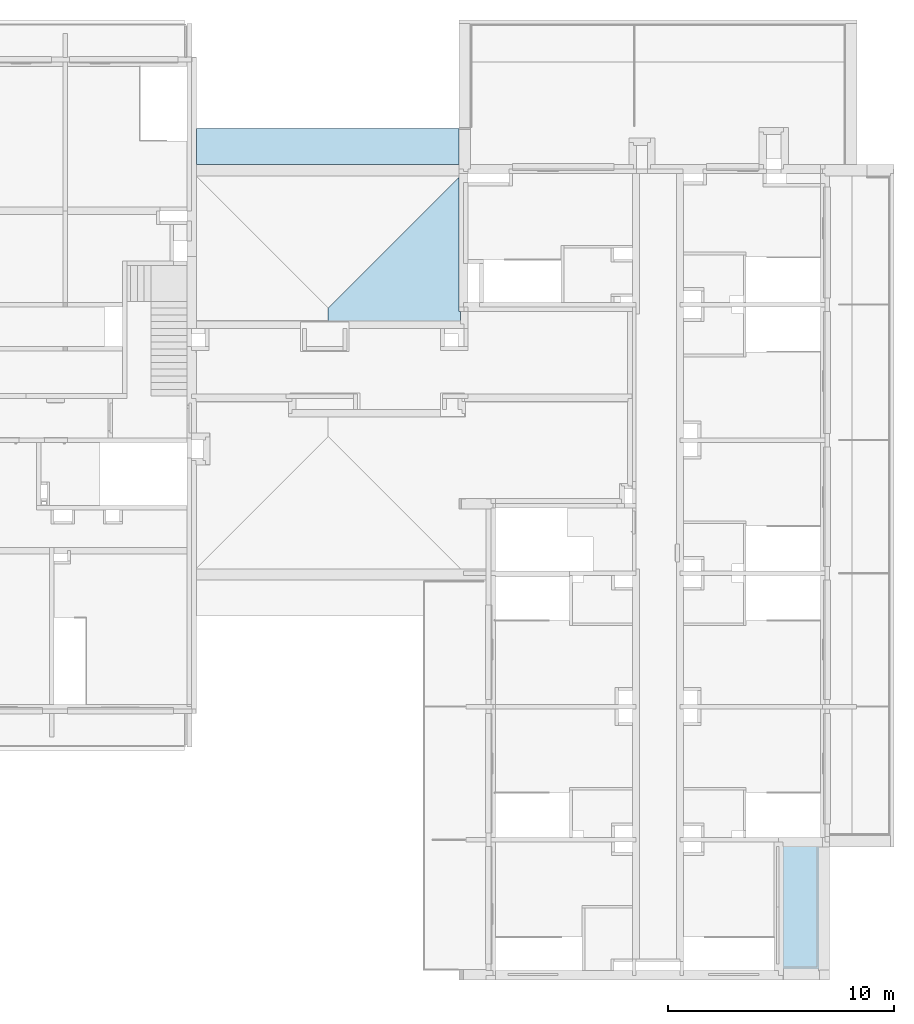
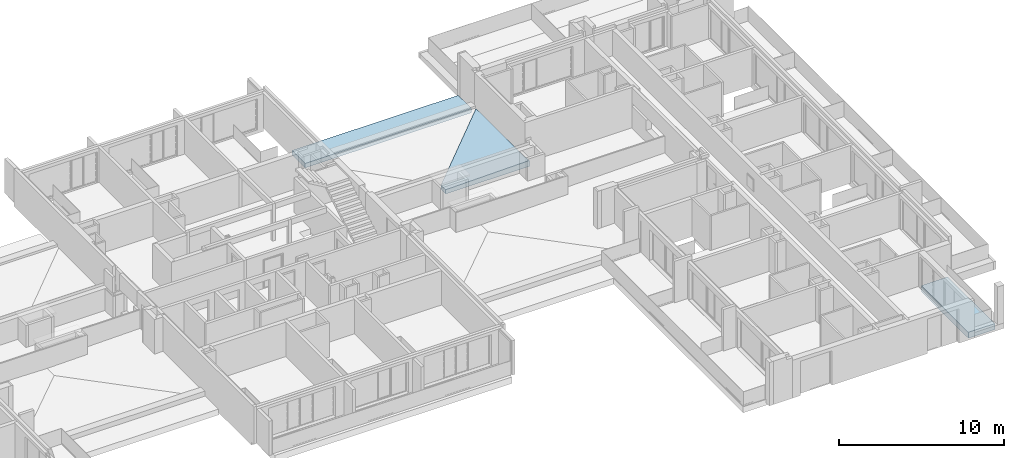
# One storey, part 6 of 30: 3 slabs.
"""IFC2X3 building model written with IfcOpenShell, lengths in millimetres."""

from ifc_helpers import new_model, entity, si_unit, converted_unit, derived_unit, money_unit, direction, frame, origin_with_axes, place, context, subcontext, project, spatial, faceted_brep, material, material_list, type_object, element, save


model = new_model("IFC2X3")

# Units and contexts
model_context = context("Model", 3, precision=0.01, world=origin_with_axes(), true_north=direction((0.34421633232, 0.938890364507)))
body_context = subcontext(model_context, "Body", "Model", "MODEL_VIEW")
ifc_project = project(units=[si_unit("LENGTHUNIT", "METRE", prefix="MILLI"), si_unit("AREAUNIT", "SQUARE_METRE"), si_unit("VOLUMEUNIT", "CUBIC_METRE"), converted_unit("PLANEANGLEUNIT", "DEGREE", entity("IfcPlaneAngleMeasure", 0.0174532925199), si_unit("PLANEANGLEUNIT", "RADIAN"), dimensions=[0, 0, 0, 0, 0, 0, 0]), si_unit("SOLIDANGLEUNIT", "STERADIAN"), money_unit("USD"), converted_unit("TIMEUNIT", "Year", entity("IfcTimeMeasure", 31556926.0), si_unit("TIMEUNIT", "SECOND"), dimensions=[0, 0, 1, 0, 0, 0, 0]), si_unit("MASSUNIT", "GRAM", prefix="KILO"), si_unit("THERMODYNAMICTEMPERATUREUNIT", "DEGREE_CELSIUS"), si_unit("LUMINOUSINTENSITYUNIT", "LUMEN"), si_unit("ENERGYUNIT", "JOULE", prefix="MEGA"), derived_unit("THERMALCONDUCTANCEUNIT", [(si_unit("POWERUNIT", "WATT"), 1), (si_unit("LENGTHUNIT", "METRE"), -1), (si_unit("THERMODYNAMICTEMPERATUREUNIT", "KELVIN"), -1)]), derived_unit("SPECIFICHEATCAPACITYUNIT", [(si_unit("ENERGYUNIT", "JOULE"), 1), (si_unit("MASSUNIT", "GRAM", prefix="KILO"), -1), (si_unit("THERMODYNAMICTEMPERATUREUNIT", "KELVIN"), -1)]), derived_unit("MASSDENSITYUNIT", [(si_unit("MASSUNIT", "GRAM", prefix="KILO"), 1), (si_unit("VOLUMEUNIT", "CUBIC_METRE"), -1)])], contexts=[model_context])

# Site, building, storey
site_placement = place(None, origin_with_axes())
site = spatial("IfcSite", under=ifc_project, at=site_placement, Name="USTRONIE MORSKIE", CompositionType="ELEMENT")
building_placement = place(site_placement, origin_with_axes())
building = spatial("IfcBuilding", under=site, at=building_placement, Name="Budynek", CompositionType="ELEMENT")
storey_placement = place(building_placement, frame((0.0, 0.0, 16000.0), z_axis=(0.0, 0.0, 1.0), x_axis=(1.0, 0.0, 0.0)))
storey = spatial("IfcBuildingStorey", under=building, at=storey_placement, Name="ANTRESOLA - KOND. TECHNICZNA", CompositionType="ELEMENT", Elevation=16000.0)

# Slabs
ifc_material_1 = material(Name="Płytki okładzinowe")
ifc_material_2 = material(Name="Pustka powietrzna")
ifc_material_3 = material(Name="Membrana przeciwwilgociowa")
ifc_material_4 = material(Name="Beton konstrukcyjny B25")
ifc_material_5 = material(Name="Laminat")
ifc_material_list_1 = material_list([ifc_material_1, ifc_material_2, ifc_material_3, ifc_material_4, ifc_material_5])
slab_type_1 = type_object("IfcSlabType", Name="Balkony na HALFENACH 330", PredefinedType="FLOOR")
slab_1_placement = place(storey_placement, frame((396627.920919, 746601.194135, -50.0000020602), z_axis=(0.0, 0.0, 1.0), x_axis=(1.0, 0.0, 0.0)))
element("IfcSlab", 1, at=slab_1_placement, inside=storey, type_object=slab_type_1, material=ifc_material_list_1, Name="P3", PredefinedType="FLOOR", context=body_context, shape_type="Brep", body=[
    faceted_brep([(0.0, -1599.99481134, -25.0), (0.0, -1599.99481134, 0.0), (0.0, 0.0, 0.0), (0.0, 0.0, -25.0), (11640.0000087, -1599.99481134, -25.0), (11640.0000087, -1599.99481134, 0.0), (11640.0000087, 0.0, 0.0), (11640.0000087, 0.0, -25.0)], [[[0, 1, 2, 3]], [[4, 5, 1, 0]], [[2, 1, 5, 6]], [[3, 2, 6, 7]], [[3, 7, 4, 0]], [[7, 6, 5, 4]]]),
    faceted_brep([(0.0, -1599.99481134, -105.0), (0.0, -1599.99481134, -25.0), (0.0, 0.0, -25.0), (0.0, 0.0, -105.0), (11640.0000087, -1599.99481134, -105.0), (11640.0000087, -1599.99481134, -25.0), (11640.0000087, 0.0, -25.0), (11640.0000087, 0.0, -105.0)], [[[0, 1, 2, 3]], [[4, 5, 1, 0]], [[2, 1, 5, 6]], [[3, 2, 6, 7]], [[3, 7, 4, 0]], [[7, 6, 5, 4]]]),
    faceted_brep([(0.0, -1599.99481134, -110.0), (0.0, -1599.99481134, -105.0), (0.0, 0.0, -105.0), (0.0, 0.0, -110.0), (11640.0000087, -1599.99481134, -110.0), (11640.0000087, -1599.99481134, -105.0), (11640.0000087, 0.0, -105.0), (11640.0000087, 0.0, -110.0)], [[[0, 1, 2, 3]], [[4, 5, 1, 0]], [[2, 1, 5, 6]], [[3, 2, 6, 7]], [[3, 7, 4, 0]], [[7, 6, 5, 4]]]),
    faceted_brep([(0.0, -1599.99481134, -310.0), (0.0, -1599.99481134, -110.0), (0.0, 0.0, -110.0), (0.0, 0.0, -310.0), (11640.0000087, -1599.99481134, -310.0), (11640.0000087, -1599.99481134, -110.0), (11640.0000087, 0.0, -110.0), (11640.0000087, 0.0, -310.0)], [[[0, 1, 2, 3]], [[4, 5, 1, 0]], [[2, 1, 5, 6]], [[3, 2, 6, 7]], [[3, 7, 4, 0]], [[7, 6, 5, 4]]]),
    faceted_brep([(0.0, -1589.99481316, -310.0), (11630.0, -1589.99481316, -310.0), (11630.0, 0.0, -310.0), (0.0, 0.0, -310.0), (11630.0, -1589.99481316, -330.0), (0.0, -1589.99481316, -330.0), (11630.0, 0.0, -330.0), (0.0, 0.0, -330.0)], [[[0, 1, 2, 3]], [[4, 1, 0, 5]], [[1, 4, 6, 2]], [[2, 6, 7, 3]], [[5, 0, 3, 7]], [[4, 5, 7, 6]]]),
])
ifc_material_6 = material(Name="Okładzina kamienna")
ifc_material_7 = material(Name="Żwir")
ifc_material_8 = material(Name="Membrana hydroizolacyjna")
ifc_material_9 = material(Name="Termoizolacja PIR")
ifc_material_list_2 = material_list([ifc_material_6, ifc_material_7, ifc_material_8, ifc_material_9, ifc_material_9])
slab_type_2 = type_object("IfcSlabType", Name="509-PS STROP DACH BALAST 560", PredefinedType="ROOF")
slab_2_placement = place(storey_placement, frame((402517.920904, 738396.199224, -400.0), z_axis=(0.0, 0.0, 1.0), x_axis=(-5.50732422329e-09, 1.0, 0.0)))
element("IfcSlab", 2, at=slab_2_placement, inside=storey, type_object=slab_type_2, material=ifc_material_list_2, Name="DA3", PredefinedType="ROOF", context=body_context, shape_type="Brep", body=[
    faceted_brep([(104.9997112, -5809.99993928, 676.311987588), (104.99971153, -5750.00006046, 675.111990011), (6054.99984963, -5750.00009323, 675.111990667), (254.999737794, 49.9999833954, 559.111989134), (-315.000101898, 49.9999865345, 559.111989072), (-315.000134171, -5809.99993696, 676.311987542), (104.99971119, -5809.99993929, 656.307987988), (104.999711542, -5750.00006047, 655.107990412), (6054.99984963, -5750.00009323, 655.107991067), (254.999737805, 49.9999834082, 539.107989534), (-315.000101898, 49.9999865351, 539.107989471), (-315.000134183, -5809.99993696, 656.307987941)], [[[0, 1, 2, 3, 4, 5]], [[0, 6, 7, 1]], [[1, 7, 8, 2]], [[2, 8, 9, 3]], [[3, 9, 10, 4]], [[4, 10, 11, 5]], [[5, 11, 6, 0]], [[6, 11, 10, 9, 8, 7]]]),
    faceted_brep([(-315.000134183, -5809.99993696, 656.307987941), (-315.00013423, -5809.99993695, 576.291989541), (104.999711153, -5809.99993935, 576.291989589), (104.99971119, -5809.99993929, 656.307987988), (-315.000101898, 49.9999865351, 539.107989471), (-315.000101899, 49.9999865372, 459.091991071), (254.999737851, 49.9999834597, 459.091991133), (6054.99984964, -5750.00009325, 575.091992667), (104.999711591, -5750.00006051, 575.091992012), (104.999711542, -5750.00006047, 655.107990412), (6054.99984963, -5750.00009323, 655.107991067), (254.999737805, 49.9999834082, 539.107989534)], [[[0, 1, 2, 3]], [[4, 5, 1, 0]], [[2, 1, 5, 6, 7, 8]], [[3, 2, 8, 9]], [[3, 9, 10, 11, 4, 0]], [[11, 6, 5, 4]], [[10, 7, 6, 11]], [[9, 8, 7, 10]]]),
    faceted_brep([(-315.00013423, -5809.99993695, 576.291989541), (-315.000134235, -5809.99993695, 566.289989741), (104.999711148, -5809.99993935, 566.289989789), (104.999711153, -5809.99993935, 576.291989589), (-315.000101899, 49.9999865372, 459.091991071), (-315.000101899, 49.9999865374, 449.089991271), (254.999737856, 49.9999834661, 449.089991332), (6054.99984964, -5750.00009325, 565.089992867), (104.999711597, -5750.00006052, 565.089992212), (104.999711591, -5750.00006051, 575.091992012), (6054.99984964, -5750.00009325, 575.091992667), (254.999737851, 49.9999834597, 459.091991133)], [[[0, 1, 2, 3]], [[4, 5, 1, 0]], [[2, 1, 5, 6, 7, 8]], [[3, 2, 8, 9]], [[3, 9, 10, 11, 4, 0]], [[11, 6, 5, 4]], [[10, 7, 6, 11]], [[9, 8, 7, 10]]]),
    faceted_brep([(-315.000134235, -5809.99993695, 566.289989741), (-315.000134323, -5809.99993692, 416.25999274), (104.999711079, -5809.99993946, 416.25999279), (104.999711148, -5809.99993935, 566.289989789), (-315.000101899, 49.9999865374, 449.089991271), (-315.0001019, 49.9999865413, 299.05999427), (254.999737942, 49.9999835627, 299.05999433), (6054.99984965, -5750.00009329, 415.059995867), (104.999711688, -5750.0000606, 415.059995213), (104.999711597, -5750.00006052, 565.089992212), (6054.99984964, -5750.00009325, 565.089992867), (254.999737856, 49.9999834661, 449.089991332)], [[[0, 1, 2, 3]], [[4, 5, 1, 0]], [[2, 1, 5, 6, 7, 8]], [[3, 2, 8, 9]], [[3, 9, 10, 11, 4, 0]], [[11, 6, 5, 4]], [[10, 7, 6, 11]], [[9, 8, 7, 10]]]),
    faceted_brep([(-315.000134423, -5809.99993689, 245.0), (104.999710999, -5809.99993958, 245.0), (104.999711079, -5809.99993946, 416.25999279), (-315.000134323, -5809.99993692, 416.25999274), (104.999711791, -5750.00006069, 245.0), (-315.0001019, 49.9999865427, 245.0), (254.999737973, 49.9999835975, 245.0), (6054.99984967, -5750.00009333, 245.0), (104.999711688, -5750.0000606, 415.059995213), (6054.99984965, -5750.00009329, 415.059995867), (254.999737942, 49.9999835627, 299.05999433), (-315.0001019, 49.9999865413, 299.05999427)], [[[0, 1, 2, 3]], [[4, 1, 0, 5, 6, 7]], [[1, 4, 8, 2]], [[3, 2, 8, 9, 10, 11]], [[5, 0, 3, 11]], [[6, 5, 11, 10]], [[7, 6, 10, 9]], [[4, 7, 9, 8]]]),
])
ifc_material_10 = material(Name="Wylewka")
ifc_material_11 = material(Name="Płyty styropianowe twarde")
ifc_material_list_3 = material_list([ifc_material_1, ifc_material_10, ifc_material_11, ifc_material_3, ifc_material_4])
slab_type_3 = type_object("IfcSlabType", Name="Tarasy kond.5 440", PredefinedType="FLOOR")
slab_3_placement = place(storey_placement, frame((422417.920919, 715001.199036, 79.9999979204), z_axis=(0.0, 0.0, 1.0), x_axis=(1.0, 0.0, 0.0)))
element("IfcSlab", 3, at=slab_3_placement, inside=storey, type_object=slab_type_3, material=ifc_material_list_3, Name="P10", PredefinedType="FLOOR", context=body_context, shape_type="Brep", body=[
    faceted_brep([(0.0, 0.0, -25.0), (-1.3073986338e-09, -5700.0, -25.0), (-1.3073986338e-09, -5700.0, 0.0), (0.0, 0.0, 0.0), (1850.0, 0.0, -25.0), (1850.0, -5700.0, -25.0), (1850.0, -5700.0, 0.0), (1850.0, 0.0, 0.0)], [[[0, 1, 2, 3]], [[1, 0, 4, 5]], [[1, 5, 6, 2]], [[7, 3, 2, 6]], [[4, 0, 3, 7]], [[5, 4, 7, 6]]]),
    faceted_brep([(0.0, 0.0, -85.0), (-1.3073986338e-09, -5700.0, -85.0), (-1.3073986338e-09, -5700.0, -25.0), (0.0, 0.0, -25.0), (1850.0, 0.0, -85.0), (1850.0, -5700.0, -85.0), (1850.0, -5700.0, -25.0), (1850.0, 0.0, -25.0)], [[[0, 1, 2, 3]], [[1, 0, 4, 5]], [[1, 5, 6, 2]], [[7, 3, 2, 6]], [[4, 0, 3, 7]], [[5, 4, 7, 6]]]),
    faceted_brep([(0.0, 0.0, -235.0), (-1.3073986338e-09, -5700.0, -235.0), (-1.3073986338e-09, -5700.0, -85.0), (0.0, 0.0, -85.0), (1850.0, 0.0, -235.0), (1850.0, -5700.0, -235.0), (1850.0, -5700.0, -85.0), (1850.0, 0.0, -85.0)], [[[0, 1, 2, 3]], [[1, 0, 4, 5]], [[1, 5, 6, 2]], [[7, 3, 2, 6]], [[4, 0, 3, 7]], [[5, 4, 7, 6]]]),
    faceted_brep([(0.0, 0.0, -240.0), (-1.3073986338e-09, -5700.0, -240.0), (-1.3073986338e-09, -5700.0, -235.0), (0.0, 0.0, -235.0), (1850.0, 0.0, -240.0), (1850.0, -5700.0, -240.0), (1850.0, -5700.0, -235.0), (1850.0, 0.0, -235.0)], [[[0, 1, 2, 3]], [[1, 0, 4, 5]], [[1, 5, 6, 2]], [[7, 3, 2, 6]], [[4, 0, 3, 7]], [[5, 4, 7, 6]]]),
    faceted_brep([(0.0, 0.0, -440.0), (-1.3073986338e-09, -5700.0, -440.0), (-1.3073986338e-09, -5700.0, -240.0), (0.0, 0.0, -240.0), (1850.0, 0.0, -440.0), (1850.0, -5700.0, -440.0), (1850.0, -5700.0, -240.0), (1850.0, 0.0, -240.0)], [[[0, 1, 2, 3]], [[0, 4, 5, 1]], [[1, 5, 6, 2]], [[3, 2, 6, 7]], [[4, 0, 3, 7]], [[5, 4, 7, 6]]]),
])

save(model, "model.ifc")
